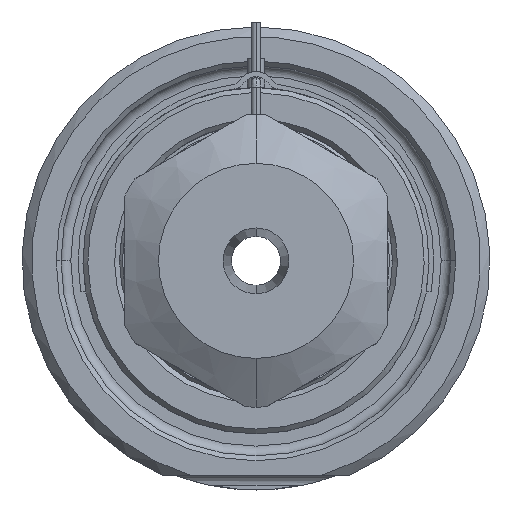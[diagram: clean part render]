
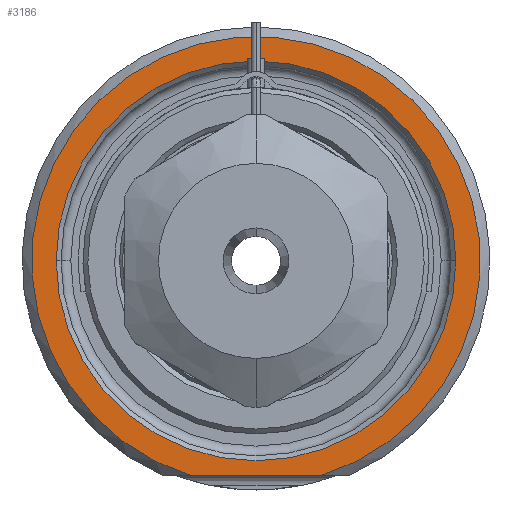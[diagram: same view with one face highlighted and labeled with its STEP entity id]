
A CAD part, front view. The second image highlights one B-rep face of the part: STEP entity #3186.
In plain terms, the highlighted planar face has unit normal (0, -1, 0).
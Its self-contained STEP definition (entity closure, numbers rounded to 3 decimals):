
#1=DIRECTION('',(1.,0.,0.));
#2=VECTOR('',#1,13.416);
#3=CARTESIAN_POINT('',(-6.708,0.,-22.));
#4=LINE('',#3,#2);
#5=CARTESIAN_POINT('',(0.,0.,0.));
#6=DIRECTION('',(0.,1.,0.));
#7=DIRECTION('',(-1.,0.,0.));
#8=AXIS2_PLACEMENT_3D('',#5,#6,#7);
#10=CARTESIAN_POINT('',(0.,0.,0.));
#11=DIRECTION('',(0.,1.,0.));
#12=DIRECTION('',(1.,0.,0.));
#13=AXIS2_PLACEMENT_3D('',#10,#11,#12);
#121=CARTESIAN_POINT('',(0.,0.,0.));
#122=DIRECTION('',(0.,-1.,0.));
#123=DIRECTION('',(0.292,0.,-0.957));
#124=AXIS2_PLACEMENT_3D('',#121,#122,#123);
#2635=CARTESIAN_POINT('',(-20.5,0.,0.));
#2636=CARTESIAN_POINT('',(20.5,0.,0.));
#2637=VERTEX_POINT('',#2635);
#2638=VERTEX_POINT('',#2636);
#2675=CARTESIAN_POINT('',(-6.708,0.,-22.));
#2676=CARTESIAN_POINT('',(6.708,0.,-22.));
#2677=VERTEX_POINT('',#2675);
#2678=VERTEX_POINT('',#2676);
#3169=CARTESIAN_POINT('',(0.,0.,0.));
#3170=DIRECTION('',(0.,-1.,0.));
#3171=DIRECTION('',(1.,0.,0.));
#3172=AXIS2_PLACEMENT_3D('',#3169,#3170,#3171);
#3173=PLANE('',#3172);
#3175=ORIENTED_EDGE('',*,*,#3174,.F.);
#3177=ORIENTED_EDGE('',*,*,#3176,.F.);
#3178=EDGE_LOOP('',(#3175,#3177));
#3179=FACE_OUTER_BOUND('',#3178,.F.);
#3181=ORIENTED_EDGE('',*,*,#3180,.F.);
#3183=ORIENTED_EDGE('',*,*,#3182,.F.);
#3184=EDGE_LOOP('',(#3181,#3183));
#3185=FACE_BOUND('',#3184,.F.);
#3186=ADVANCED_FACE('',(#3179,#3185),#3173,.T.);
#9=CIRCLE('',#8,20.5);
#14=CIRCLE('',#13,20.5);
#125=CIRCLE('',#124,23.);
#3174=EDGE_CURVE('',#2677,#2678,#4,.T.);
#3176=EDGE_CURVE('',#2678,#2677,#125,.T.);
#3180=EDGE_CURVE('',#2637,#2638,#9,.T.);
#3182=EDGE_CURVE('',#2638,#2637,#14,.T.);
